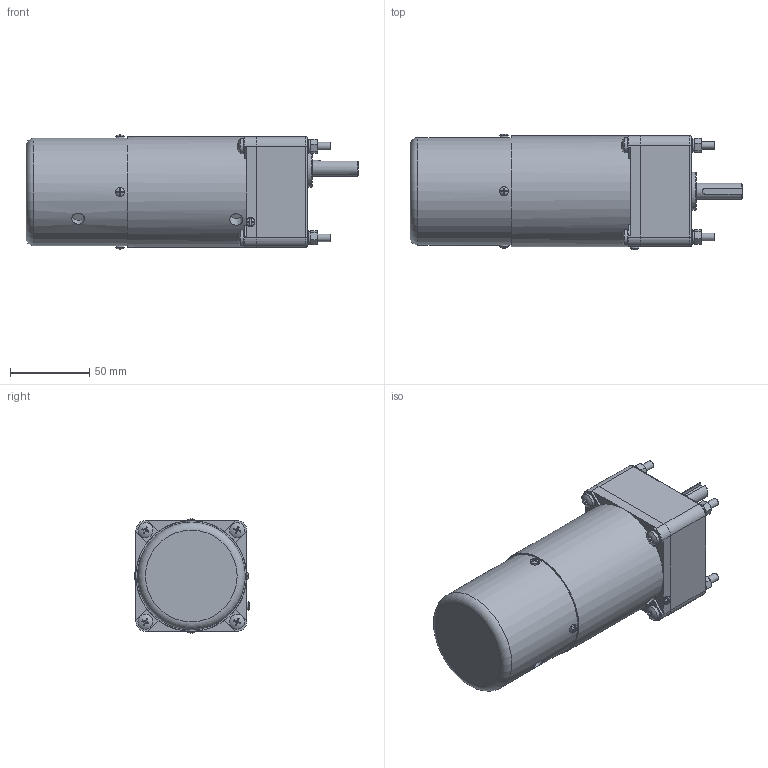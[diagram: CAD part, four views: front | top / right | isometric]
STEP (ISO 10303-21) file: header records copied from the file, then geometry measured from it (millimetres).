
FILE_DESCRIPTION(/* description */ (''),/* implementation_level */ '2;1');
FILE_NAME(/* name */ '70矮箱T-25刹车调速.stp',/* time_stamp */ '2022-10-31T09:38:02+08:00',/* author */ (''),/* organization */ (''),/* preprocessor_version */ 'ST-DEVELOPER v16.7',/* originating_system */ 'SIEMENS PLM Software NX 1899',/* authorisation */ '');
FILE_SCHEMA (('AP203_CONFIGURATION_CONTROLLED_3D_DESIGN_OF_MECHANICAL_PARTS_AND_ASSEMBLIES_MIM_LF { 1 0 10303 403 2 1 2}'));
Length unit declared in the file: millimetre
Products named in the file (1): yf186188FEB6lcaj
Bounding box: 210 x 73.18 x 72.28 mm (x, y, z)
Volume: 712431.5 mm3; surface area: 71776.7 mm2
Topology: 22 solids, 23 shells, 447 faces, 1075 edges, 695 vertices
Faces by surface type: plane 207, bspline 80, cylinder 77, cone 63, torus 11, sphere 9
Full cylindrical faces by diameter (mm): 2.7 x1, 4.351 x4, 4.826 x4, 5 x4, 5.3 x8, 5.6 x5, 6 x9, 8 x1, 8.3 x1, 9 x8, 9.5 x4, 10 x1, 24 x1, 63 x1, 66.6 x2, 68 x1, 70 x1
Entity records: 14328 total; most frequent: CARTESIAN_POINT 3856, ORIENTED_EDGE 1904, DIRECTION 1699, EDGE_CURVE 952, AXIS2_PLACEMENT_3D 706, VERTEX_POINT 658, EDGE_LOOP 593, ADVANCED_FACE 447
